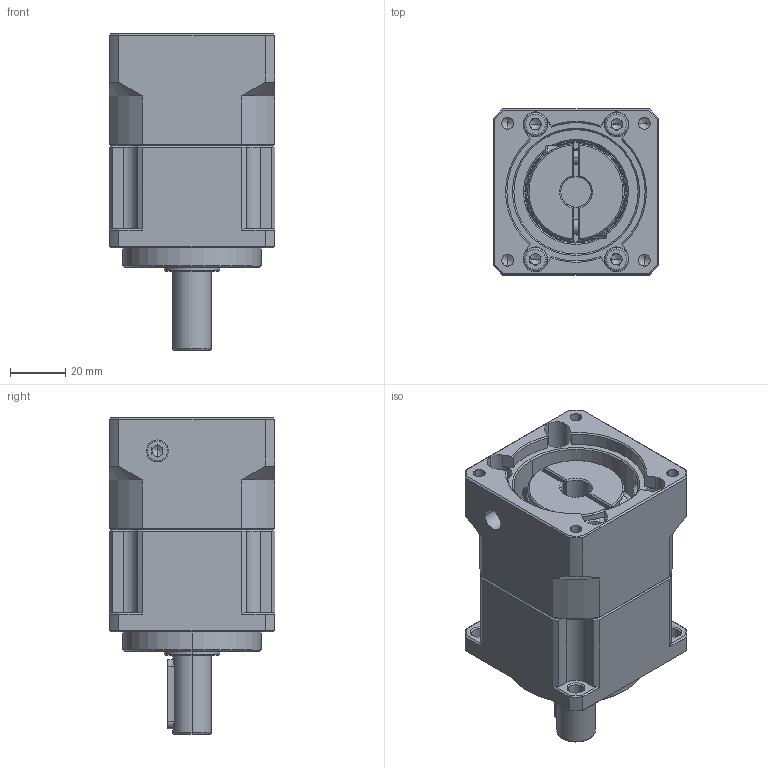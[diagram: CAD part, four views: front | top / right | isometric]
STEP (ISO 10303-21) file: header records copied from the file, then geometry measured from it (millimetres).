
FILE_DESCRIPTION (( 'STEP AP214' ), '1' );
FILE_NAME ('ZPB060-D14-L1-P1-11-50-70-M5.step', '2024-04-23T14:21:33', ( 'Windows 蚚誧' ), ( 'Organization' ), 'SwSTEP 2.0', 'SolidWorks 2016', '' );
FILE_SCHEMA (( 'AUTOMOTIVE_DESIGN' ));
Length unit declared in the file: millimetre
Products named in the file (1): ZPB060-D14-L1-P1-11-50-70-M5
Bounding box: 60 x 60 x 114.5 mm (x, y, z)
Volume: 233091.5 mm3; surface area: 68476.3 mm2
Topology: 14 solids, 14 shells, 1735 faces, 4934 edges, 3198 vertices
Faces by surface type: plane 868, bspline 322, cylinder 259, cone 148, torus 92, sphere 46
Entity records: 92744 total; most frequent: CARTESIAN_POINT 31597, ORIENTED_EDGE 9562, DIRECTION 7367, EDGE_CURVE 4781, VERTEX_POINT 3129, VECTOR 2797, LINE 2797, AXIS2_PLACEMENT_3D 2285
